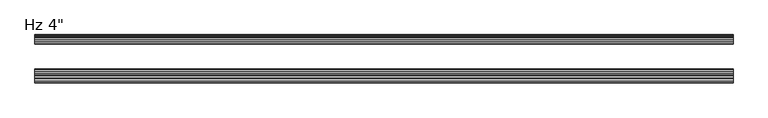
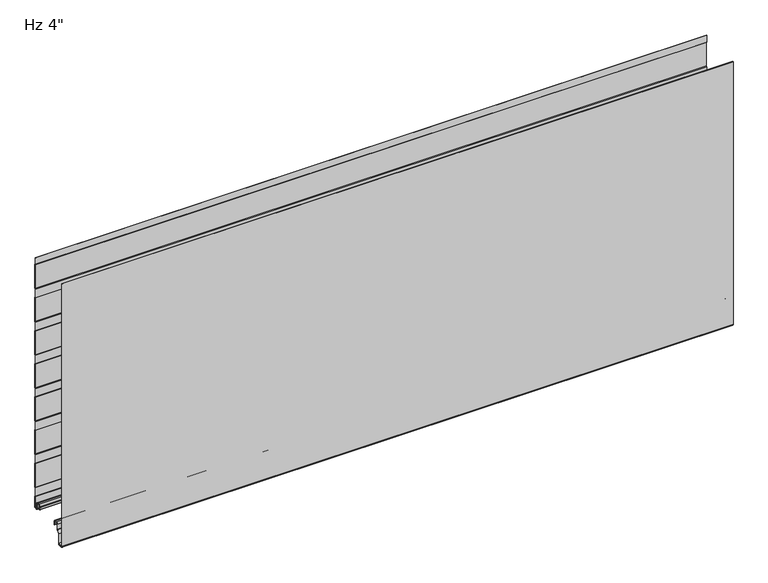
"""IFC4 building model written with IfcOpenShell, lengths in millimetres: plate geometry."""

from ifc_helpers import new_model, si_unit, point, frame, frame_2d, origin, place, context, project, spatial, polyline, circle_curve, trimmed, segment, composite_curve, outline, extrude, source, transform, mapped, element, save
from ifc_brep_helpers import plane_surface, cylinder_surface, revolved_surface, advanced_brep


def plate_0649b553(model_context):
    return source(origin(), model_context, "Body", "SolidModel", [
        extrude(outline(composite_curve([segment(trimmed(circle_curve(frame_2d((-98.0297491, -32.4521148)), 3.5702393), [point((-97.7184787, -36.0087592))], [point((-101.5999884, -32.4521125))], False, "CARTESIAN"), True, "CONTINUOUS"), segment(polyline([(-101.5999884, -32.4521125), (-101.5996024, 571.2), (-100.5993815, 571.2), (-100.5993815, -32.509446)]), True, "CONTINUOUS"), segment(trimmed(circle_curve(frame_2d((-98.0297816, -32.4521176)), 2.5702393), [point((-100.5993815, -32.509446))], [point((-97.805696, -35.0125699))], True, "CARTESIAN"), True, "CONTINUOUS"), segment(polyline([(-97.805696, -35.0125699), (-92.8238751, -34.5765709)]), True, "CONTINUOUS"), segment(trimmed(circle_curve(frame_2d((-93.3052657, -31.9198392)), 2.6999926), [point((-92.8238751, -34.5765709))], [point((-90.6052731, -31.9198392))], True, "CARTESIAN"), True, "CONTINUOUS"), segment(polyline([(-90.6052731, -31.9198392), (-90.6052731, -9.8247096), (-85.103202, -4.3226385)]), True, "CONTINUOUS"), segment(trimmed(circle_curve(frame_2d((-86.3052797, -3.1205608)), 1.6999946), [point((-85.103202, -4.3226385))], [point((-84.6052851, -3.1205608))], True, "CARTESIAN"), True, "CONTINUOUS"), segment(polyline([(-84.6052851, -3.1205608), (-84.6052851, 8.6903283)]), True, "CONTINUOUS"), segment(trimmed(circle_curve(frame_2d((-81.2552898, 8.6903283)), 3.3499953), [point((-84.6052851, 8.6903283))], [point((-81.2552898, 12.0403236))], False, "CARTESIAN"), True, "CONTINUOUS"), segment(polyline([(-81.2552898, 12.0403236), (-76.8552986, 12.0403236)]), True, "CONTINUOUS"), segment(trimmed(circle_curve(frame_2d((-76.8552986, 8.6903283)), 3.3499953), [point((-76.8552986, 12.0403236))], [point((-73.5053033, 8.6903283))], False, "CARTESIAN"), True, "CONTINUOUS"), segment(polyline([(-73.5053033, 8.6903283), (-73.5053033, 5.9912173), (-72.1068244, 5.9912173), (-72.1068244, 2.2328239)]), True, "CONTINUOUS"), segment(trimmed(circle_curve(frame_2d((-73.3068211, 2.2313092)), 1.1999976), [point((-72.1068244, 2.2328239))], [point((-73.2762992, 1.0316999))], False, "CARTESIAN"), True, "CONTINUOUS"), segment(trimmed(circle_curve(frame_2d((-73.3068211, 2.2313092)), 1.1999976), [point((-73.2762992, 1.0316999))], [point((-74.5053033, 2.1710221))], False, "CARTESIAN"), True, "CONTINUOUS"), segment(polyline([(-74.5053033, 2.1710221), (-74.5053033, 8.6903283)]), True, "CONTINUOUS"), segment(trimmed(circle_curve(frame_2d((-76.8552986, 8.6903283)), 2.3499953), [point((-74.5053033, 8.6903283))], [point((-76.8552986, 11.0403236))], True, "CARTESIAN"), True, "CONTINUOUS"), segment(polyline([(-76.8552986, 11.0403236), (-81.2552898, 11.0403236)]), True, "CONTINUOUS"), segment(trimmed(circle_curve(frame_2d((-81.2552898, 8.6903283)), 2.3499953), [point((-81.2552898, 11.0403236))], [point((-83.6052851, 8.6903283))], True, "CARTESIAN"), True, "CONTINUOUS"), segment(polyline([(-83.6052851, 8.6903283), (-83.6052851, -3.1205608)]), True, "CONTINUOUS"), segment(trimmed(circle_curve(frame_2d((-86.3052797, -3.1205608)), 2.6999946), [point((-83.6052851, -3.1205608))], [point((-84.3960952, -5.0297453))], False, "CARTESIAN"), True, "CONTINUOUS"), segment(polyline([(-84.3960952, -5.0297453), (-89.2245127, -9.8581627)]), True, "CONTINUOUS"), segment(trimmed(circle_curve(frame_2d((-88.3052757, -10.7773997)), 1.2999974), [point((-89.2245127, -9.8581627))], [point((-89.6052731, -10.7773997))], True, "CARTESIAN"), True, "CONTINUOUS"), segment(polyline([(-89.6052731, -10.7773997), (-89.6052731, -31.9198392)]), True, "CONTINUOUS"), segment(trimmed(circle_curve(frame_2d((-93.3052657, -31.9198392)), 3.6999926), [point((-89.6052731, -31.9198392))], [point((-92.6944646, -35.5690675))], False, "CARTESIAN"), True, "CONTINUOUS"), segment(polyline([(-92.6944646, -35.5690675), (-97.7184787, -36.0087592)]), True, "CONTINUOUS")], self_intersect=False)), frame((-730.0, 0.0, 0.0), z_axis=(1.0, 0.0, 0.0), x_axis=(0.0, 1.0, 0.0)), (0.0, 0.0, 1.0), 1460.0),
        advanced_brep(
        [(-730.0, -17.0015368, 2.0313088), (-730.0, -18.00154, 1.0313116), (-730.0, -19.0015314, 2.0313088), (-730.0, -19.0015314, 6.0315125), (-730.0, -18.0015368, 6.0315125), (-730.0, -18.0015368, 8.7237223), (-730.0, -14.7015411, 12.023718), (-730.0, -10.3015499, 12.023718), (-730.0, -7.0015544, 8.7237225), (-730.0, -7.0015544, -1.6962564), (-730.0, -5.2315602, -3.4662506), (-730.0, -1.0000126, -3.4662506), (-730.0, -1.0000126, 21.034026), (-730.0, -2.2002516, 22.4196686), (-730.0, -2.2002516, 41.7948349), (-730.0, -1.0000209, 43.1804679), (-730.0, -1.0000209, 97.2338833), (-730.0, -2.2002516, 98.6195162), (-730.0, -2.2002516, 117.9946825), (-730.0, -1.0000209, 119.3803155), (-730.0, -1.0000209, 173.4337309), (-730.0, -2.2002516, 174.8193638), (-730.0, -2.2002516, 194.1945301), (-730.0, -1.0000209, 195.5801631), (-730.0, -1.0000209, 249.6335785), (-730.0, -2.2002516, 251.0192114), (-730.0, -2.2002516, 270.3943777), (-730.0, -1.0000209, 271.7800107), (-730.0, -1.0000209, 325.8334261), (-730.0, -2.2002516, 327.219059), (-730.0, -2.2002516, 346.5942253), (-730.0, -1.0000209, 347.9798583), (-730.0, -1.0000209, 402.0332737), (-730.0, -2.2002516, 403.4189066), (-730.0, -2.2002516, 422.7940729), (-730.0, -1.0000209, 424.1797059), (-730.0, -1.0000209, 478.2331213), (-730.0, -2.2002516, 479.6187542), (-730.0, -2.2002516, 498.9939205), (-730.0, -1.0000209, 500.3795535), (-730.0, -1.0000209, 554.4329689), (-730.0, -2.2002516, 555.8186018), (-730.0, -2.2002516, 571.2), (-730.0, -1.2002516, 571.2), (-730.0, -1.2002516, 556.1914823), (-730.0, -0.3418094, 555.2004346), (-730.0, -2.09e-05, 554.2838177), (-730.0, -2.09e-05, 500.5287046), (-730.0, -0.3418094, 499.6120877), (-730.0, -1.2002516, 498.6210401), (-730.0, -1.2002516, 479.9916347), (-730.0, -0.3418094, 479.000587), (-730.0, -2.09e-05, 478.0839701), (-730.0, -2.09e-05, 424.328857), (-730.0, -0.3418094, 423.4122401), (-730.0, -1.2002516, 422.4211925), (-730.0, -1.2002516, 403.7917871), (-730.0, -0.3418094, 402.8007394), (-730.0, -2.09e-05, 401.8841225), (-730.0, -2.09e-05, 348.1290094), (-730.0, -0.3418094, 347.2123925), (-730.0, -1.2002516, 346.2213449), (-730.0, -1.2002516, 327.5919395), (-730.0, -0.3418094, 326.6008918), (-730.0, -2.09e-05, 325.6842749), (-730.0, -2.09e-05, 271.9291618), (-730.0, -0.3418094, 271.0125449), (-730.0, -1.2002516, 270.0214973), (-730.0, -1.2002516, 251.3920919), (-730.0, -0.3418094, 250.4010442), (-730.0, -2.09e-05, 249.4844273), (-730.0, -2.09e-05, 195.7293142), (-730.0, -0.3418094, 194.8126973), (-730.0, -1.2002516, 193.8216497), (-730.0, -1.2002516, 175.1922443), (-730.0, -0.3418094, 174.2011966), (-730.0, -2.09e-05, 173.2845797), (-730.0, -2.09e-05, 119.5294666), (-730.0, -0.3418094, 118.6128497), (-730.0, -1.2002516, 117.6218021), (-730.0, -1.2002516, 98.9923967), (-730.0, -0.3418094, 98.001349), (-730.0, -2.09e-05, 97.0847321), (-730.0, -2.09e-05, 43.329619), (-730.0, -0.3418094, 42.4130021), (-730.0, -1.2002516, 41.4219545), (-730.0, -1.2002516, 22.7925491), (-730.0, -0.3418094, 21.8015014), (-730.0, -2.09e-05, 20.8847931), (-730.0, -1.26e-05, -3.0662545), (-730.0, -1.4000087, -4.4662506), (-730.0, -5.2315602, -4.4662506), (-730.0, -8.0015544, -1.6962564), (-730.0, -8.0015544, 8.7237225), (-730.0, -10.3015499, 11.023718), (-730.0, -14.7015411, 11.023718), (-730.0, -17.0015368, 8.7237223), (730.0, -17.0015368, 2.0313088), (730.0, -17.0015368, 8.7237223), (730.0, -14.7015411, 11.023718), (730.0, -10.3015499, 11.023718), (730.0, -8.0015544, 8.7237225), (730.0, -8.0015544, -1.6962564), (730.0, -5.2315602, -4.4662506), (730.0, -1.4000087, -4.4662506), (730.0, -1.26e-05, -3.0662545), (730.0, -1.26e-05, 20.8848845), (730.0, -0.3418094, 21.8015014), (730.0, -1.2002516, 22.7925491), (730.0, -1.2002516, 41.4219545), (730.0, -0.3418094, 42.4130021), (730.0, -2.09e-05, 43.329619), (730.0, -2.09e-05, 97.0847321), (730.0, -0.3418094, 98.001349), (730.0, -1.2002516, 98.9923967), (730.0, -1.2002516, 117.6218021), (730.0, -0.3418094, 118.6128497), (730.0, -2.09e-05, 119.5294666), (730.0, -2.09e-05, 173.2845797), (730.0, -0.3418094, 174.2011966), (730.0, -1.2002516, 175.1922443), (730.0, -1.2002516, 193.8216497), (730.0, -0.3418094, 194.8126973), (730.0, -2.09e-05, 195.7293142), (730.0, -2.09e-05, 249.4844273), (730.0, -0.3418094, 250.4010442), (730.0, -1.2002516, 251.3920919), (730.0, -1.2002516, 270.0214973), (730.0, -0.3418094, 271.0125449), (730.0, -2.09e-05, 271.9291618), (730.0, -2.09e-05, 325.6842749), (730.0, -0.3418094, 326.6008918), (730.0, -1.2002516, 327.5919395), (730.0, -1.2002516, 346.2213449), (730.0, -0.3418094, 347.2123925), (730.0, -2.09e-05, 348.1290094), (730.0, -2.09e-05, 401.8841225), (730.0, -0.3418094, 402.8007394), (730.0, -1.2002516, 403.7917871), (730.0, -1.2002516, 422.4211925), (730.0, -0.3418094, 423.4122401), (730.0, -2.09e-05, 424.328857), (730.0, -2.09e-05, 478.0839701), (730.0, -0.3418094, 479.000587), (730.0, -1.2002516, 479.9916347), (730.0, -1.2002516, 498.6210401), (730.0, -0.3418094, 499.6120877), (730.0, -2.09e-05, 500.5287046), (730.0, -2.09e-05, 554.2838177), (730.0, -0.3418094, 555.2004346), (730.0, -1.2002516, 556.1914823), (730.0, -1.2002516, 571.2), (730.0, -2.2002516, 571.2), (730.0, -2.2002516, 555.8186018), (730.0, -1.0000209, 554.4329689), (730.0, -1.0000209, 500.3795535), (730.0, -2.2002516, 498.9939205), (730.0, -2.2002516, 479.6187542), (730.0, -1.0000209, 478.2331213), (730.0, -1.0000209, 424.1797059), (730.0, -2.2002516, 422.7940729), (730.0, -2.2002516, 403.4189066), (730.0, -1.0000209, 402.0332737), (730.0, -1.0000209, 347.9798583), (730.0, -2.2002516, 346.5942253), (730.0, -2.2002516, 327.219059), (730.0, -1.0000209, 325.8334261), (730.0, -1.0000209, 271.7800107), (730.0, -2.2002516, 270.3943777), (730.0, -2.2002516, 251.0192114), (730.0, -1.0000209, 249.6335785), (730.0, -1.0000209, 195.5801631), (730.0, -2.2002516, 194.1945301), (730.0, -2.2002516, 174.8193638), (730.0, -1.0000209, 173.4337309), (730.0, -1.0000209, 119.3803155), (730.0, -2.2002516, 117.9946825), (730.0, -2.2002516, 98.6195162), (730.0, -1.0000209, 97.2338833), (730.0, -1.0000209, 43.1804679), (730.0, -2.2002516, 41.7948349), (730.0, -2.2002516, 22.4196686), (730.0, -1.0000126, 21.034026), (730.0, -1.0000126, -3.4662506), (730.0, -5.2315602, -3.4662506), (730.0, -7.0015544, -1.6962564), (730.0, -7.0015544, 8.7237225), (730.0, -10.3015499, 12.023718), (730.0, -14.7015411, 12.023718), (730.0, -18.0015368, 8.7237223), (730.0, -18.0015368, 6.0315125), (730.0, -19.0015314, 6.0315125), (730.0, -19.0015314, 2.0313088), (730.0, -18.0015401, 1.0313116)],
        [
            (0, 1, circle_curve(frame((-730.0, -18.0015341, 2.0313088), z_axis=(-1.0, 0.0, 0.0), x_axis=(0.0, 0.0, 1.0)), 0.9999973)),
            (1, 2, circle_curve(frame((-730.0, -18.0015342, 2.0313088), z_axis=(-1.0, 0.0, 0.0), x_axis=(0.0, 0.0, 1.0)), 0.9999972)),
            (2, 3),
            (3, 4),
            (4, 5),
            (5, 6, circle_curve(frame((-730.0, -14.7015411, 8.7237223), z_axis=(-1.0, 0.0, 0.0), x_axis=(0.0, 0.0, 1.0)), 3.2999957)),
            (6, 7),
            (7, 8, circle_curve(frame((-730.0, -10.3015499, 8.7237225), z_axis=(-1.0, 0.0, 0.0), x_axis=(0.0, 0.0, 1.0)), 3.2999955)),
            (8, 9),
            (9, 10, circle_curve(frame((-730.0, -5.2315602, -1.6962564), z_axis=(1.0, 0.0, 0.0), x_axis=(0.0, 0.0, 1.0)), 1.7699942)),
            (10, 11),
            (11, 12),
            (12, 13),
            (13, 14),
            (14, 15),
            (15, 16),
            (16, 17),
            (17, 18),
            (18, 19),
            (19, 20),
            (20, 21),
            (21, 22),
            (22, 23),
            (23, 24),
            (24, 25),
            (25, 26),
            (26, 27),
            (27, 28),
            (28, 29),
            (29, 30),
            (30, 31),
            (31, 32),
            (32, 33),
            (33, 34),
            (34, 35),
            (35, 36),
            (36, 37),
            (37, 38),
            (38, 39),
            (39, 40),
            (40, 41),
            (41, 42),
            (42, 43),
            (43, 44),
            (44, 45),
            (45, 46, circle_curve(frame((-730.0, -1.4000181, 554.2838177), z_axis=(-1.0, 0.0, 0.0), x_axis=(0.0, 0.0, 1.0)), 1.3999972)),
            (46, 47),
            (47, 48, circle_curve(frame((-730.0, -1.4000181, 500.5287046), z_axis=(-1.0, 0.0, 0.0), x_axis=(0.0, 0.0, 1.0)), 1.3999972)),
            (48, 49),
            (49, 50),
            (50, 51),
            (51, 52, circle_curve(frame((-730.0, -1.4000181, 478.0839701), z_axis=(-1.0, 0.0, 0.0), x_axis=(0.0, 0.0, 1.0)), 1.3999972)),
            (52, 53),
            (53, 54, circle_curve(frame((-730.0, -1.4000181, 424.328857), z_axis=(-1.0, 0.0, 0.0), x_axis=(0.0, 0.0, 1.0)), 1.3999972)),
            (54, 55),
            (55, 56),
            (56, 57),
            (57, 58, circle_curve(frame((-730.0, -1.4000181, 401.8841225), z_axis=(-1.0, 0.0, 0.0), x_axis=(0.0, 0.0, 1.0)), 1.3999972)),
            (58, 59),
            (59, 60, circle_curve(frame((-730.0, -1.4000181, 348.1290094), z_axis=(-1.0, 0.0, 0.0), x_axis=(0.0, 0.0, 1.0)), 1.3999972)),
            (60, 61),
            (61, 62),
            (62, 63),
            (63, 64, circle_curve(frame((-730.0, -1.4000181, 325.6842749), z_axis=(-1.0, 0.0, 0.0), x_axis=(0.0, 0.0, 1.0)), 1.3999972)),
            (64, 65),
            (65, 66, circle_curve(frame((-730.0, -1.4000181, 271.9291618), z_axis=(-1.0, 0.0, 0.0), x_axis=(0.0, 0.0, 1.0)), 1.3999972)),
            (66, 67),
            (67, 68),
            (68, 69),
            (69, 70, circle_curve(frame((-730.0, -1.4000181, 249.4844273), z_axis=(-1.0, 0.0, 0.0), x_axis=(0.0, 0.0, 1.0)), 1.3999972)),
            (70, 71),
            (71, 72, circle_curve(frame((-730.0, -1.4000181, 195.7293142), z_axis=(-1.0, 0.0, 0.0), x_axis=(0.0, 0.0, 1.0)), 1.3999972)),
            (72, 73),
            (73, 74),
            (74, 75),
            (75, 76, circle_curve(frame((-730.0, -1.4000181, 173.2845797), z_axis=(-1.0, 0.0, 0.0), x_axis=(0.0, 0.0, 1.0)), 1.3999972)),
            (76, 77),
            (77, 78, circle_curve(frame((-730.0, -1.4000181, 119.5294666), z_axis=(-1.0, 0.0, 0.0), x_axis=(0.0, 0.0, 1.0)), 1.3999972)),
            (78, 79),
            (79, 80),
            (80, 81),
            (81, 82, circle_curve(frame((-730.0, -1.4000181, 97.0847321), z_axis=(-1.0, 0.0, 0.0), x_axis=(0.0, 0.0, 1.0)), 1.3999972)),
            (82, 83),
            (83, 84, circle_curve(frame((-730.0, -1.4000181, 43.329619), z_axis=(-1.0, 0.0, 0.0), x_axis=(0.0, 0.0, 1.0)), 1.3999972)),
            (84, 85),
            (85, 86),
            (86, 87),
            (87, 88, circle_curve(frame((-730.0, -1.4000181, 20.8848845), z_axis=(-1.0, 0.0, 0.0), x_axis=(0.0, 0.0, 1.0)), 1.3999972)),
            (88, 89),
            (89, 90, circle_curve(frame((-730.0, -1.4000087, -3.0662545), z_axis=(-1.0, 0.0, 0.0), x_axis=(0.0, 0.0, 1.0)), 1.3999962)),
            (90, 91),
            (91, 92, circle_curve(frame((-730.0, -5.2315602, -1.6962564), z_axis=(-1.0, 0.0, 0.0), x_axis=(0.0, 0.0, 1.0)), 2.7699942)),
            (92, 93),
            (93, 94, circle_curve(frame((-730.0, -10.3015499, 8.7237225), z_axis=(1.0, 0.0, 0.0), x_axis=(0.0, 0.0, 1.0)), 2.2999955)),
            (94, 95),
            (95, 96, circle_curve(frame((-730.0, -14.7015411, 8.7237223), z_axis=(1.0, 0.0, 0.0), x_axis=(0.0, 0.0, 1.0)), 2.2999957)),
            (96, 0),
            (97, 98),
            (98, 99, circle_curve(frame((730.0, -14.7015411, 8.7237223), z_axis=(-1.0, 0.0, 0.0), x_axis=(0.0, 0.0, 1.0)), 2.2999957)),
            (99, 100),
            (100, 101, circle_curve(frame((730.0, -10.3015499, 8.7237225), z_axis=(-1.0, 0.0, 0.0), x_axis=(0.0, 0.0, 1.0)), 2.2999955)),
            (101, 102),
            (102, 103, circle_curve(frame((730.0, -5.2315602, -1.6962564), z_axis=(1.0, 0.0, 0.0), x_axis=(0.0, 0.0, 1.0)), 2.7699942)),
            (103, 104),
            (104, 105, circle_curve(frame((730.0, -1.4000087, -3.0662545), z_axis=(1.0, 0.0, 0.0), x_axis=(0.0, 0.0, 1.0)), 1.3999962)),
            (105, 106),
            (106, 107, circle_curve(frame((730.0, -1.4000181, 20.8848845), z_axis=(1.0, 0.0, 0.0), x_axis=(0.0, 0.0, 1.0)), 1.3999972)),
            (107, 108),
            (108, 109),
            (109, 110),
            (110, 111, circle_curve(frame((730.0, -1.4000181, 43.329619), z_axis=(1.0, 0.0, 0.0), x_axis=(0.0, 0.0, 1.0)), 1.3999972)),
            (111, 112),
            (112, 113, circle_curve(frame((730.0, -1.4000181, 97.0847321), z_axis=(1.0, 0.0, 0.0), x_axis=(0.0, 0.0, 1.0)), 1.3999972)),
            (113, 114),
            (114, 115),
            (115, 116),
            (116, 117, circle_curve(frame((730.0, -1.4000181, 119.5294666), z_axis=(1.0, 0.0, 0.0), x_axis=(0.0, 0.0, 1.0)), 1.3999972)),
            (117, 118),
            (118, 119, circle_curve(frame((730.0, -1.4000181, 173.2845797), z_axis=(1.0, 0.0, 0.0), x_axis=(0.0, 0.0, 1.0)), 1.3999972)),
            (119, 120),
            (120, 121),
            (121, 122),
            (122, 123, circle_curve(frame((730.0, -1.4000181, 195.7293142), z_axis=(1.0, 0.0, 0.0), x_axis=(0.0, 0.0, 1.0)), 1.3999972)),
            (123, 124),
            (124, 125, circle_curve(frame((730.0, -1.4000181, 249.4844273), z_axis=(1.0, 0.0, 0.0), x_axis=(0.0, 0.0, 1.0)), 1.3999972)),
            (125, 126),
            (126, 127),
            (127, 128),
            (128, 129, circle_curve(frame((730.0, -1.4000181, 271.9291618), z_axis=(1.0, 0.0, 0.0), x_axis=(0.0, 0.0, 1.0)), 1.3999972)),
            (129, 130),
            (130, 131, circle_curve(frame((730.0, -1.4000181, 325.6842749), z_axis=(1.0, 0.0, 0.0), x_axis=(0.0, 0.0, 1.0)), 1.3999972)),
            (131, 132),
            (132, 133),
            (133, 134),
            (134, 135, circle_curve(frame((730.0, -1.4000181, 348.1290094), z_axis=(1.0, 0.0, 0.0), x_axis=(0.0, 0.0, 1.0)), 1.3999972)),
            (135, 136),
            (136, 137, circle_curve(frame((730.0, -1.4000181, 401.8841225), z_axis=(1.0, 0.0, 0.0), x_axis=(0.0, 0.0, 1.0)), 1.3999972)),
            (137, 138),
            (138, 139),
            (139, 140),
            (140, 141, circle_curve(frame((730.0, -1.4000181, 424.328857), z_axis=(1.0, 0.0, 0.0), x_axis=(0.0, 0.0, 1.0)), 1.3999972)),
            (141, 142),
            (142, 143, circle_curve(frame((730.0, -1.4000181, 478.0839701), z_axis=(1.0, 0.0, 0.0), x_axis=(0.0, 0.0, 1.0)), 1.3999972)),
            (143, 144),
            (144, 145),
            (145, 146),
            (146, 147, circle_curve(frame((730.0, -1.4000181, 500.5287046), z_axis=(1.0, 0.0, 0.0), x_axis=(0.0, 0.0, 1.0)), 1.3999972)),
            (147, 148),
            (148, 149, circle_curve(frame((730.0, -1.4000181, 554.2838177), z_axis=(1.0, 0.0, 0.0), x_axis=(0.0, 0.0, 1.0)), 1.3999972)),
            (149, 150),
            (150, 151),
            (151, 152),
            (152, 153),
            (153, 154),
            (154, 155),
            (155, 156),
            (156, 157),
            (157, 158),
            (158, 159),
            (159, 160),
            (160, 161),
            (161, 162),
            (162, 163),
            (163, 164),
            (164, 165),
            (165, 166),
            (166, 167),
            (167, 168),
            (168, 169),
            (169, 170),
            (170, 171),
            (171, 172),
            (172, 173),
            (173, 174),
            (174, 175),
            (175, 176),
            (176, 177),
            (177, 178),
            (178, 179),
            (179, 180),
            (180, 181),
            (181, 182),
            (182, 183),
            (183, 184),
            (184, 185, circle_curve(frame((730.0, -5.2315602, -1.6962564), z_axis=(-1.0, 0.0, 0.0), x_axis=(0.0, 0.0, 1.0)), 1.7699942)),
            (185, 186),
            (186, 187, circle_curve(frame((730.0, -10.3015499, 8.7237225), z_axis=(1.0, 0.0, 0.0), x_axis=(0.0, 0.0, 1.0)), 3.2999955)),
            (187, 188),
            (188, 189, circle_curve(frame((730.0, -14.7015411, 8.7237223), z_axis=(1.0, 0.0, 0.0), x_axis=(0.0, 0.0, 1.0)), 3.2999957)),
            (189, 190),
            (190, 191),
            (191, 192),
            (192, 193, circle_curve(frame((730.0, -18.0015342, 2.0313088), z_axis=(1.0, 0.0, 0.0), x_axis=(0.0, 0.0, 1.0)), 0.9999972)),
            (193, 97, circle_curve(frame((730.0, -18.0015341, 2.0313088), z_axis=(1.0, 0.0, 0.0), x_axis=(0.0, 0.0, 1.0)), 0.9999973)),
            (42, 152),
            (151, 43),
            (96, 98),
            (97, 0),
            (95, 99),
            (94, 100),
            (93, 101),
            (92, 102),
            (91, 103),
            (90, 104),
            (89, 105),
            (88, 106),
            (87, 107),
            (86, 108),
            (85, 109),
            (84, 110),
            (83, 111),
            (82, 112),
            (81, 113),
            (80, 114),
            (79, 115),
            (78, 116),
            (77, 117),
            (76, 118),
            (75, 119),
            (74, 120),
            (73, 121),
            (72, 122),
            (71, 123),
            (70, 124),
            (69, 125),
            (68, 126),
            (67, 127),
            (66, 128),
            (65, 129),
            (64, 130),
            (63, 131),
            (62, 132),
            (61, 133),
            (60, 134),
            (59, 135),
            (58, 136),
            (57, 137),
            (56, 138),
            (55, 139),
            (54, 140),
            (53, 141),
            (52, 142),
            (51, 143),
            (50, 144),
            (49, 145),
            (48, 146),
            (47, 147),
            (46, 148),
            (45, 149),
            (44, 150),
            (41, 153),
            (40, 154),
            (39, 155),
            (38, 156),
            (37, 157),
            (36, 158),
            (35, 159),
            (34, 160),
            (33, 161),
            (32, 162),
            (31, 163),
            (30, 164),
            (29, 165),
            (28, 166),
            (27, 167),
            (26, 168),
            (25, 169),
            (24, 170),
            (23, 171),
            (22, 172),
            (21, 173),
            (20, 174),
            (19, 175),
            (18, 176),
            (17, 177),
            (16, 178),
            (15, 179),
            (14, 180),
            (13, 181),
            (12, 182),
            (11, 183),
            (10, 184),
            (9, 185),
            (8, 186),
            (7, 187),
            (6, 188),
            (5, 189),
            (4, 190),
            (3, 191),
            (2, 192),
            (1, 193),
        ],
        [
            plane_surface(frame((-730.0, -2.09e-05, 457.2), z_axis=(-1.0, 0.0, 0.0), x_axis=(0.0, 1.0, 0.0))),
            plane_surface(frame((730.0, -2.09e-05, 457.2), z_axis=(1.0, 0.0, 0.0), x_axis=(0.0, 1.0, 0.0))),
            plane_surface(frame((730.0, 9.9999791, 571.2), z_axis=(0.0, 0.0, 1.0), x_axis=(-1.0, 0.0, 0.0))),
            plane_surface(frame((-730.0, -17.0015368, 2.0313088), z_axis=(0.0, 1.0, 0.0), x_axis=(1.0, 0.0, 0.0))),
            revolved_surface(polyline([(730.0, -14.7015411, 11.023718), (-730.0, -14.7015411, 11.023718)]), (-730.0, -14.7015411, 8.7237223), (1.0, 0.0, 0.0)),
            plane_surface(frame((-730.0, -14.7015411, 11.023718), z_axis=(0.0, 0.0, -1.0), x_axis=(1.0, 0.0, 0.0))),
            revolved_surface(polyline([(730.0, -10.3015499, 11.023717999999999), (-730.0, -10.3015499, 11.023717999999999)]), (-730.0, -10.3015499, 8.7237225), (1.0, 0.0, 0.0)),
            plane_surface(frame((-730.0, -8.0015544, 8.7237225), z_axis=(0.0, -1.0, 0.0), x_axis=(1.0, 0.0, 0.0))),
            cylinder_surface(frame((-730.0, -5.2315602, -1.6962564), z_axis=(-1.0, 0.0, 0.0), x_axis=(0.0, 0.0, 1.0)), 2.7699942),
            plane_surface(frame((-730.0, -5.2315602, -4.4662506), z_axis=(0.0, 0.0, -1.0), x_axis=(1.0, 0.0, 0.0))),
            cylinder_surface(frame((-730.0, -1.4000087, -3.0662545), z_axis=(-1.0, 0.0, 0.0), x_axis=(0.0, 0.0, 1.0)), 1.3999962),
            plane_surface(frame((-730.0, -1.26e-05, -3.0662545), z_axis=(0.0, 1.0, 0.0), x_axis=(1.0, 0.0, 0.0))),
            cylinder_surface(frame((-730.0, -1.4000181, 20.8848845), z_axis=(-1.0, 0.0, 0.0), x_axis=(0.0, 0.0, 1.0)), 1.3999972),
            plane_surface(frame((-730.0, -0.3418094, 21.8015014), z_axis=(0.0, 0.755864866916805, 0.6547276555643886), x_axis=(1.0, 0.0, 0.0))),
            plane_surface(frame((-730.0, -1.2002516, 32.1072518), z_axis=(0.0, 1.0, 0.0), x_axis=(1.0, 0.0, 0.0))),
            plane_surface(frame((-730.0, -1.2002516, 41.4219545), z_axis=(0.0, 0.755864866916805, -0.6547276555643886), x_axis=(1.0, 0.0, 0.0))),
            cylinder_surface(frame((-730.0, -1.4000181, 43.329619), z_axis=(-1.0, 0.0, 0.0), x_axis=(0.0, 0.0, 1.0)), 1.3999972),
            plane_surface(frame((-730.0, -2.09e-05, 43.329619), z_axis=(0.0, 1.0, 0.0), x_axis=(1.0, 0.0, 0.0))),
            cylinder_surface(frame((-730.0, -1.4000181, 97.0847321), z_axis=(-1.0, 0.0, 0.0), x_axis=(0.0, 0.0, 1.0)), 1.3999972),
            plane_surface(frame((-730.0, -0.3418094, 98.001349), z_axis=(0.0, 0.755864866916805, 0.6547276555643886), x_axis=(1.0, 0.0, 0.0))),
            plane_surface(frame((-730.0, -1.2002516, 108.3070994), z_axis=(0.0, 1.0, 0.0), x_axis=(1.0, 0.0, 0.0))),
            plane_surface(frame((-730.0, -1.2002516, 117.6218021), z_axis=(0.0, 0.755864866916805, -0.6547276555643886), x_axis=(1.0, 0.0, 0.0))),
            cylinder_surface(frame((-730.0, -1.4000181, 119.5294666), z_axis=(-1.0, 0.0, 0.0), x_axis=(0.0, 0.0, 1.0)), 1.3999972),
            plane_surface(frame((-730.0, -2.09e-05, 119.5294666), z_axis=(0.0, 1.0, 0.0), x_axis=(1.0, 0.0, 0.0))),
            cylinder_surface(frame((-730.0, -1.4000181, 173.2845797), z_axis=(-1.0, 0.0, 0.0), x_axis=(0.0, 0.0, 1.0)), 1.3999972),
            plane_surface(frame((-730.0, -0.3418094, 174.2011966), z_axis=(0.0, 0.755864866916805, 0.6547276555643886), x_axis=(1.0, 0.0, 0.0))),
            plane_surface(frame((-730.0, -1.2002516, 184.506947), z_axis=(0.0, 1.0, 0.0), x_axis=(1.0, 0.0, 0.0))),
            plane_surface(frame((-730.0, -1.2002516, 193.8216497), z_axis=(0.0, 0.755864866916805, -0.6547276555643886), x_axis=(1.0, 0.0, 0.0))),
            cylinder_surface(frame((-730.0, -1.4000181, 195.7293142), z_axis=(-1.0, 0.0, 0.0), x_axis=(0.0, 0.0, 1.0)), 1.3999972),
            plane_surface(frame((-730.0, -2.09e-05, 195.7293142), z_axis=(0.0, 1.0, 0.0), x_axis=(1.0, 0.0, 0.0))),
            cylinder_surface(frame((-730.0, -1.4000181, 249.4844273), z_axis=(-1.0, 0.0, 0.0), x_axis=(0.0, 0.0, 1.0)), 1.3999972),
            plane_surface(frame((-730.0, -0.3418094, 250.4010442), z_axis=(0.0, 0.755864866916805, 0.6547276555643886), x_axis=(1.0, 0.0, 0.0))),
            plane_surface(frame((-730.0, -1.2002516, 260.7067946), z_axis=(0.0, 1.0, 0.0), x_axis=(1.0, 0.0, 0.0))),
            plane_surface(frame((-730.0, -1.2002516, 270.0214973), z_axis=(0.0, 0.755864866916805, -0.6547276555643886), x_axis=(1.0, 0.0, 0.0))),
            cylinder_surface(frame((-730.0, -1.4000181, 271.9291618), z_axis=(-1.0, 0.0, 0.0), x_axis=(0.0, 0.0, 1.0)), 1.3999972),
            plane_surface(frame((-730.0, -2.09e-05, 271.9291618), z_axis=(0.0, 1.0, 0.0), x_axis=(1.0, 0.0, 0.0))),
            cylinder_surface(frame((-730.0, -1.4000181, 325.6842749), z_axis=(-1.0, 0.0, 0.0), x_axis=(0.0, 0.0, 1.0)), 1.3999972),
            plane_surface(frame((-730.0, -0.3418094, 326.6008918), z_axis=(0.0, 0.755864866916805, 0.6547276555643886), x_axis=(1.0, 0.0, 0.0))),
            plane_surface(frame((-730.0, -1.2002516, 336.9066422), z_axis=(0.0, 1.0, 0.0), x_axis=(1.0, 0.0, 0.0))),
            plane_surface(frame((-730.0, -1.2002516, 346.2213449), z_axis=(0.0, 0.755864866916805, -0.6547276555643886), x_axis=(1.0, 0.0, 0.0))),
            cylinder_surface(frame((-730.0, -1.4000181, 348.1290094), z_axis=(-1.0, 0.0, 0.0), x_axis=(0.0, 0.0, 1.0)), 1.3999972),
            plane_surface(frame((-730.0, -2.09e-05, 348.1290094), z_axis=(0.0, 1.0, 0.0), x_axis=(1.0, 0.0, 0.0))),
            cylinder_surface(frame((-730.0, -1.4000181, 401.8841225), z_axis=(-1.0, 0.0, 0.0), x_axis=(0.0, 0.0, 1.0)), 1.3999972),
            plane_surface(frame((-730.0, -0.3418094, 402.8007394), z_axis=(0.0, 0.755864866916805, 0.6547276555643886), x_axis=(1.0, 0.0, 0.0))),
            plane_surface(frame((-730.0, -1.2002516, 413.1064898), z_axis=(0.0, 1.0, 0.0), x_axis=(1.0, 0.0, 0.0))),
            plane_surface(frame((-730.0, -1.2002516, 422.4211925), z_axis=(0.0, 0.755864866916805, -0.6547276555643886), x_axis=(1.0, 0.0, 0.0))),
            cylinder_surface(frame((-730.0, -1.4000181, 424.328857), z_axis=(-1.0, 0.0, 0.0), x_axis=(0.0, 0.0, 1.0)), 1.3999972),
            plane_surface(frame((-730.0, -2.09e-05, 424.328857), z_axis=(0.0, 1.0, 0.0), x_axis=(1.0, 0.0, 0.0))),
            cylinder_surface(frame((-730.0, -1.4000181, 478.0839701), z_axis=(-1.0, 0.0, 0.0), x_axis=(0.0, 0.0, 1.0)), 1.3999972),
            plane_surface(frame((-730.0, -0.3418094, 479.000587), z_axis=(0.0, 0.755864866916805, 0.6547276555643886), x_axis=(1.0, 0.0, 0.0))),
            plane_surface(frame((-730.0, -1.2002516, 489.3063374), z_axis=(0.0, 1.0, 0.0), x_axis=(1.0, 0.0, 0.0))),
            plane_surface(frame((-730.0, -1.2002516, 498.6210401), z_axis=(0.0, 0.755864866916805, -0.6547276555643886), x_axis=(1.0, 0.0, 0.0))),
            cylinder_surface(frame((-730.0, -1.4000181, 500.5287046), z_axis=(-1.0, 0.0, 0.0), x_axis=(0.0, 0.0, 1.0)), 1.3999972),
            plane_surface(frame((-730.0, -2.09e-05, 500.5287046), z_axis=(0.0, 1.0, 0.0), x_axis=(1.0, 0.0, 0.0))),
            cylinder_surface(frame((-730.0, -1.4000181, 554.2838177), z_axis=(-1.0, 0.0, 0.0), x_axis=(0.0, 0.0, 1.0)), 1.3999972),
            plane_surface(frame((-730.0, -0.3418094, 555.2004346), z_axis=(0.0, 0.755864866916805, 0.6547276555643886), x_axis=(1.0, 0.0, 0.0))),
            plane_surface(frame((-730.0, -1.2002516, 565.506185), z_axis=(0.0, 1.0, 0.0), x_axis=(1.0, 0.0, 0.0))),
            plane_surface(frame((-730.0, -2.2002516, 575.1937681), z_axis=(0.0, -1.0, 0.0), x_axis=(1.0, 0.0, 0.0))),
            plane_surface(frame((-730.0, -2.2002516, 555.8186018), z_axis=(0.0, -0.755864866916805, -0.6547276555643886), x_axis=(1.0, 0.0, 0.0))),
            plane_surface(frame((-730.0, -1.0000209, 554.4329689), z_axis=(0.0, -1.0, 0.0), x_axis=(1.0, 0.0, 0.0))),
            plane_surface(frame((-730.0, -1.0000209, 500.3795535), z_axis=(0.0, -0.755864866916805, 0.6547276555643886), x_axis=(1.0, 0.0, 0.0))),
            plane_surface(frame((-730.0, -2.2002516, 498.9939205), z_axis=(0.0, -1.0, 0.0), x_axis=(1.0, 0.0, 0.0))),
            plane_surface(frame((-730.0, -2.2002516, 479.6187542), z_axis=(0.0, -0.755864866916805, -0.6547276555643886), x_axis=(1.0, 0.0, 0.0))),
            plane_surface(frame((-730.0, -1.0000209, 478.2331213), z_axis=(0.0, -1.0, 0.0), x_axis=(1.0, 0.0, 0.0))),
            plane_surface(frame((-730.0, -1.0000209, 424.1797059), z_axis=(0.0, -0.755864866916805, 0.6547276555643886), x_axis=(1.0, 0.0, 0.0))),
            plane_surface(frame((-730.0, -2.2002516, 422.7940729), z_axis=(0.0, -1.0, 0.0), x_axis=(1.0, 0.0, 0.0))),
            plane_surface(frame((-730.0, -2.2002516, 403.4189066), z_axis=(0.0, -0.755864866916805, -0.6547276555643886), x_axis=(1.0, 0.0, 0.0))),
            plane_surface(frame((-730.0, -1.0000209, 402.0332737), z_axis=(0.0, -1.0, 0.0), x_axis=(1.0, 0.0, 0.0))),
            plane_surface(frame((-730.0, -1.0000209, 347.9798583), z_axis=(0.0, -0.755864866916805, 0.6547276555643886), x_axis=(1.0, 0.0, 0.0))),
            plane_surface(frame((-730.0, -2.2002516, 346.5942253), z_axis=(0.0, -1.0, 0.0), x_axis=(1.0, 0.0, 0.0))),
            plane_surface(frame((-730.0, -2.2002516, 327.219059), z_axis=(0.0, -0.755864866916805, -0.6547276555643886), x_axis=(1.0, 0.0, 0.0))),
            plane_surface(frame((-730.0, -1.0000209, 325.8334261), z_axis=(0.0, -1.0, 0.0), x_axis=(1.0, 0.0, 0.0))),
            plane_surface(frame((-730.0, -1.0000209, 271.7800107), z_axis=(0.0, -0.755864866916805, 0.6547276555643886), x_axis=(1.0, 0.0, 0.0))),
            plane_surface(frame((-730.0, -2.2002516, 270.3943777), z_axis=(0.0, -1.0, 0.0), x_axis=(1.0, 0.0, 0.0))),
            plane_surface(frame((-730.0, -2.2002516, 251.0192114), z_axis=(0.0, -0.755864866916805, -0.6547276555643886), x_axis=(1.0, 0.0, 0.0))),
            plane_surface(frame((-730.0, -1.0000209, 249.6335785), z_axis=(0.0, -1.0, 0.0), x_axis=(1.0, 0.0, 0.0))),
            plane_surface(frame((-730.0, -1.0000209, 195.5801631), z_axis=(0.0, -0.755864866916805, 0.6547276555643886), x_axis=(1.0, 0.0, 0.0))),
            plane_surface(frame((-730.0, -2.2002516, 194.1945301), z_axis=(0.0, -1.0, 0.0), x_axis=(1.0, 0.0, 0.0))),
            plane_surface(frame((-730.0, -2.2002516, 174.8193638), z_axis=(0.0, -0.755864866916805, -0.6547276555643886), x_axis=(1.0, 0.0, 0.0))),
            plane_surface(frame((-730.0, -1.0000209, 173.4337309), z_axis=(0.0, -1.0, 0.0), x_axis=(1.0, 0.0, 0.0))),
            plane_surface(frame((-730.0, -1.0000209, 119.3803155), z_axis=(0.0, -0.755864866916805, 0.6547276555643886), x_axis=(1.0, 0.0, 0.0))),
            plane_surface(frame((-730.0, -2.2002516, 117.9946825), z_axis=(0.0, -1.0, 0.0), x_axis=(1.0, 0.0, 0.0))),
            plane_surface(frame((-730.0, -2.2002516, 98.6195162), z_axis=(0.0, -0.755864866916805, -0.6547276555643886), x_axis=(1.0, 0.0, 0.0))),
            plane_surface(frame((-730.0, -1.0000209, 97.2338833), z_axis=(0.0, -1.0, 0.0), x_axis=(1.0, 0.0, 0.0))),
            plane_surface(frame((-730.0, -1.0000209, 43.1804679), z_axis=(0.0, -0.755864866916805, 0.6547276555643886), x_axis=(1.0, 0.0, 0.0))),
            plane_surface(frame((-730.0, -2.2002516, 41.7948349), z_axis=(0.0, -1.0, 0.0), x_axis=(1.0, 0.0, 0.0))),
            plane_surface(frame((-730.0, -2.2002516, 22.4196686), z_axis=(0.0, -0.755864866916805, -0.6547276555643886), x_axis=(1.0, 0.0, 0.0))),
            plane_surface(frame((-730.0, -1.0000126, 21.034026), z_axis=(0.0, -1.0, 0.0), x_axis=(1.0, 0.0, 0.0))),
            plane_surface(frame((-730.0, -1.0000126, -3.4662506), z_axis=(0.0, 0.0, 1.0), x_axis=(1.0, 0.0, 0.0))),
            revolved_surface(polyline([(730.0, -5.2315602, 0.07373779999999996), (-730.0, -5.2315602, 0.07373779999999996)]), (-730.0, -5.2315602, -1.6962564), (1.0, 0.0, 0.0)),
            plane_surface(frame((-730.0, -7.0015544, -1.6962564), z_axis=(0.0, 1.0, 0.0), x_axis=(1.0, 0.0, 0.0))),
            cylinder_surface(frame((-730.0, -10.3015499, 8.7237225), z_axis=(-1.0, 0.0, 0.0), x_axis=(0.0, 0.0, 1.0)), 3.2999955),
            plane_surface(frame((-730.0, -10.3015499, 12.023718), z_axis=(0.0, 0.0, 1.0), x_axis=(1.0, 0.0, 0.0))),
            cylinder_surface(frame((-730.0, -14.7015411, 8.7237223), z_axis=(-1.0, 0.0, 0.0), x_axis=(0.0, 0.0, 1.0)), 3.2999957),
            plane_surface(frame((-730.0, -18.0015368, 8.7237223), z_axis=(0.0, -1.0, 0.0), x_axis=(1.0, 0.0, 0.0))),
            plane_surface(frame((-730.0, -18.0015368, 6.0315125), z_axis=(0.0, 0.0, 1.0), x_axis=(1.0, 0.0, 0.0))),
            plane_surface(frame((-730.0, -19.0015314, 6.0315125), z_axis=(0.0, -1.0, 0.0), x_axis=(1.0, 0.0, 0.0))),
            cylinder_surface(frame((-730.0, -18.0015342, 2.0313088), z_axis=(-1.0, 0.0, 0.0), x_axis=(0.0, 0.0, 1.0)), 0.9999972),
            cylinder_surface(frame((-730.0, -18.0015341, 2.0313088), z_axis=(-1.0, 0.0, 0.0), x_axis=(0.0, 0.0, 1.0)), 0.9999973),
        ],
        [
            (0, [[1, 2, 3, 4, 5, 6, 7, 8, 9, 10, 11, 12, 13, 14, 15, 16, 17, 18, 19, 20, 21, 22, 23, 24, 25, 26, 27, 28, 29, 30, 31, 32, 33, 34, 35, 36, 37, 38, 39, 40, 41, 42, 43, 44, 45, 46, 47, 48, 49, 50, 51, 52, 53, 54, 55, 56, 57, 58, 59, 60, 61, 62, 63, 64, 65, 66, 67, 68, 69, 70, 71, 72, 73, 74, 75, 76, 77, 78, 79, 80, 81, 82, 83, 84, 85, 86, 87, 88, 89, 90, 91, 92, 93, 94, 95, 96, 97]]),
            (1, [[98, 99, 100, 101, 102, 103, 104, 105, 106, 107, 108, 109, 110, 111, 112, 113, 114, 115, 116, 117, 118, 119, 120, 121, 122, 123, 124, 125, 126, 127, 128, 129, 130, 131, 132, 133, 134, 135, 136, 137, 138, 139, 140, 141, 142, 143, 144, 145, 146, 147, 148, 149, 150, 151, 152, 153, 154, 155, 156, 157, 158, 159, 160, 161, 162, 163, 164, 165, 166, 167, 168, 169, 170, 171, 172, 173, 174, 175, 176, 177, 178, 179, 180, 181, 182, 183, 184, 185, 186, 187, 188, 189, 190, 191, 192, 193, 194]]),
            (2, [[195, -152, 196, -43]]),
            (3, [[197, -98, 198, -97]]),
            (4, [[199, -99, -197, -96]]),
            (5, [[200, -100, -199, -95]]),
            (6, [[201, -101, -200, -94]]),
            (7, [[202, -102, -201, -93]]),
            (8, [[203, -103, -202, -92]]),
            (9, [[204, -104, -203, -91]]),
            (10, [[205, -105, -204, -90]]),
            (11, [[206, -106, -205, -89]]),
            (12, [[207, -107, -206, -88]]),
            (13, [[208, -108, -207, -87]]),
            (14, [[209, -109, -208, -86]]),
            (15, [[210, -110, -209, -85]]),
            (16, [[211, -111, -210, -84]]),
            (17, [[212, -112, -211, -83]]),
            (18, [[213, -113, -212, -82]]),
            (19, [[214, -114, -213, -81]]),
            (20, [[215, -115, -214, -80]]),
            (21, [[216, -116, -215, -79]]),
            (22, [[217, -117, -216, -78]]),
            (23, [[218, -118, -217, -77]]),
            (24, [[219, -119, -218, -76]]),
            (25, [[220, -120, -219, -75]]),
            (26, [[221, -121, -220, -74]]),
            (27, [[222, -122, -221, -73]]),
            (28, [[223, -123, -222, -72]]),
            (29, [[224, -124, -223, -71]]),
            (30, [[225, -125, -224, -70]]),
            (31, [[226, -126, -225, -69]]),
            (32, [[227, -127, -226, -68]]),
            (33, [[228, -128, -227, -67]]),
            (34, [[229, -129, -228, -66]]),
            (35, [[230, -130, -229, -65]]),
            (36, [[231, -131, -230, -64]]),
            (37, [[232, -132, -231, -63]]),
            (38, [[233, -133, -232, -62]]),
            (39, [[234, -134, -233, -61]]),
            (40, [[235, -135, -234, -60]]),
            (41, [[236, -136, -235, -59]]),
            (42, [[237, -137, -236, -58]]),
            (43, [[238, -138, -237, -57]]),
            (44, [[239, -139, -238, -56]]),
            (45, [[240, -140, -239, -55]]),
            (46, [[241, -141, -240, -54]]),
            (47, [[242, -142, -241, -53]]),
            (48, [[243, -143, -242, -52]]),
            (49, [[244, -144, -243, -51]]),
            (50, [[245, -145, -244, -50]]),
            (51, [[246, -146, -245, -49]]),
            (52, [[247, -147, -246, -48]]),
            (53, [[248, -148, -247, -47]]),
            (54, [[249, -149, -248, -46]]),
            (55, [[250, -150, -249, -45]]),
            (56, [[-44, -196, -151, -250]]),
            (57, [[-153, -195, -42, 251]]),
            (58, [[252, -154, -251, -41]]),
            (59, [[253, -155, -252, -40]]),
            (60, [[254, -156, -253, -39]]),
            (61, [[255, -157, -254, -38]]),
            (62, [[256, -158, -255, -37]]),
            (63, [[257, -159, -256, -36]]),
            (64, [[258, -160, -257, -35]]),
            (65, [[259, -161, -258, -34]]),
            (66, [[260, -162, -259, -33]]),
            (67, [[261, -163, -260, -32]]),
            (68, [[262, -164, -261, -31]]),
            (69, [[263, -165, -262, -30]]),
            (70, [[264, -166, -263, -29]]),
            (71, [[265, -167, -264, -28]]),
            (72, [[266, -168, -265, -27]]),
            (73, [[267, -169, -266, -26]]),
            (74, [[268, -170, -267, -25]]),
            (75, [[269, -171, -268, -24]]),
            (76, [[270, -172, -269, -23]]),
            (77, [[271, -173, -270, -22]]),
            (78, [[272, -174, -271, -21]]),
            (79, [[273, -175, -272, -20]]),
            (80, [[274, -176, -273, -19]]),
            (81, [[275, -177, -274, -18]]),
            (82, [[276, -178, -275, -17]]),
            (83, [[277, -179, -276, -16]]),
            (84, [[278, -180, -277, -15]]),
            (85, [[279, -181, -278, -14]]),
            (86, [[280, -182, -279, -13]]),
            (87, [[281, -183, -280, -12]]),
            (88, [[282, -184, -281, -11]]),
            (89, [[283, -185, -282, -10]]),
            (90, [[284, -186, -283, -9]]),
            (91, [[285, -187, -284, -8]]),
            (92, [[286, -188, -285, -7]]),
            (93, [[287, -189, -286, -6]]),
            (94, [[288, -190, -287, -5]]),
            (95, [[289, -191, -288, -4]]),
            (96, [[290, -192, -289, -3]]),
            (97, [[291, -193, -290, -2]]),
            (98, [[-198, -194, -291, -1]]),
        ],
    ),
    ])


if __name__ == "__main__":
    model = new_model("IFC4")
    model_context = context("Model", 3, world=origin())
    ifc_project = project(units=[si_unit("LENGTHUNIT", "METRE", prefix="MILLI")], contexts=[model_context])
    site = spatial("IfcSite", under=ifc_project)
    building = spatial("IfcBuilding", under=site)
    placement = place(None, origin())
    plate_shape = plate_0649b553(model_context)
    element("IfcPlate", 1, ObjectType="KIP-36-Karrier-KP-R19-CP-Hz-FL3-8in_SL : Hz 4\"", at=placement, inside=building, context=model_context, shape_type="MappedRepresentation", body=[
        mapped(plate_shape, transform((0.0, 0.0, 0.0), x_axis=(1.0, 0.0, 0.0), y_axis=(0.0, 1.0, 0.0), z_axis=(0.0, 0.0, 1.0))),
    ])
    save(model, "model.ifc")
